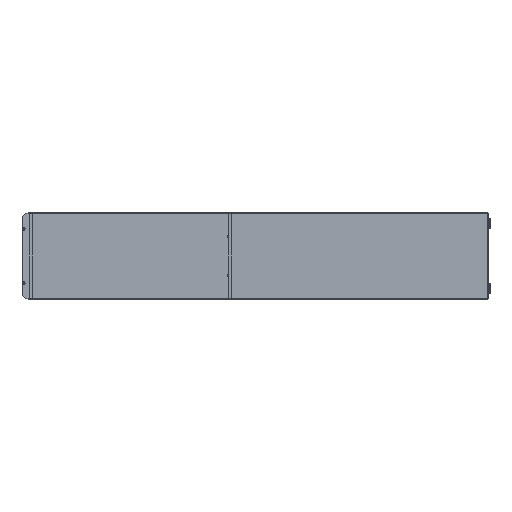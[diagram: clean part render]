
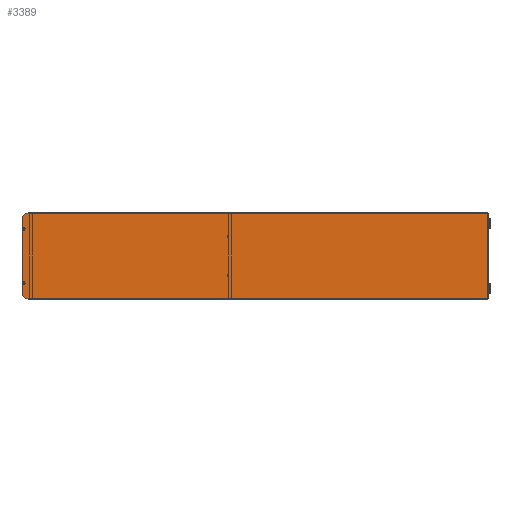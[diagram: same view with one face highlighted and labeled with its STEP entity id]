
A CAD part, left-side view. The second image highlights one B-rep face of the part: STEP entity #3389.
In plain terms, the highlighted planar face has unit normal (-1, 0, 0) as drawn and (0, 0, 1) by its records, which use the part's own axes.
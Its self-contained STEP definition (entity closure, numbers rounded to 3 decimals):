
#2192=CARTESIAN_POINT('',(-197.646,1060.07,
0.12));
#2194=CARTESIAN_POINT('',(-197.71,-1060.039,
0.119));
#2289=DIRECTION('',(1.,0.,0.));
#2290=VECTOR('',#2289,365.319);
#2291=CARTESIAN_POINT('',(-182.66,-1087.91,0.12));
#2292=LINE('',#2291,#2290);
#2297=DIRECTION('',(-0.707,0.707,0.));
#2298=VECTOR('',#2297,21.313);
#2299=CARTESIAN_POINT('',(-182.66,-1087.91,0.12));
#2300=LINE('',#2299,#2298);
#2301=DIRECTION('',(0.,1.,0.));
#2302=VECTOR('',#2301,2120.109);
#2303=CARTESIAN_POINT('',(-197.71,-1060.039,
0.119));
#2304=LINE('',#2303,#2302);
#2305=CARTESIAN_POINT('',(-197.646,1060.07,
0.12));
#2306=CARTESIAN_POINT('',(-196.734,1060.981,
0.12));
#2307=CARTESIAN_POINT('',(-195.803,1061.898,
0.12));
#2308=CARTESIAN_POINT('',(-194.892,1062.809,
0.12));
#2310=DIRECTION('',(1.,0.,0.));
#2311=VECTOR('',#2310,389.767);
#2312=CARTESIAN_POINT('',(-194.892,1062.809,
0.12));
#2313=LINE('',#2312,#2311);
#2314=CARTESIAN_POINT('',(194.876,1062.823,0.12));
#2315=CARTESIAN_POINT('',(195.794,1061.905,0.12));
#2316=CARTESIAN_POINT('',(196.728,1060.988,0.12));
#2317=CARTESIAN_POINT('',(197.645,1060.07,0.12));
#2319=DIRECTION('',(-0.707,-0.707,0.));
#2320=VECTOR('',#2319,21.313);
#2321=CARTESIAN_POINT('',(197.73,-1072.84,0.12));
#2322=LINE('',#2321,#2320);
#2323=DIRECTION('',(0.,-1.,0.));
#2324=VECTOR('',#2323,4.5);
#2325=CARTESIAN_POINT('',(-127.63,-1077.82,0.12));
#2326=LINE('',#2325,#2324);
#2327=CARTESIAN_POINT('',(-125.,-1082.32,0.12));
#2328=DIRECTION('',(0.,0.,1.));
#2329=DIRECTION('',(-1.,0.,0.));
#2330=AXIS2_PLACEMENT_3D('',#2327,#2328,#2329);
#2332=DIRECTION('',(0.,1.,0.));
#2333=VECTOR('',#2332,4.5);
#2334=CARTESIAN_POINT('',(-122.37,-1082.32,0.12));
#2335=LINE('',#2334,#2333);
#2336=CARTESIAN_POINT('',(-125.,-1077.82,0.12));
#2337=DIRECTION('',(0.,0.,1.));
#2338=DIRECTION('',(1.,0.,0.));
#2339=AXIS2_PLACEMENT_3D('',#2336,#2337,#2338);
#2341=CARTESIAN_POINT('',(125.,-1077.82,0.12));
#2342=DIRECTION('',(0.,0.,1.));
#2343=DIRECTION('',(1.,0.,0.));
#2344=AXIS2_PLACEMENT_3D('',#2341,#2342,#2343);
#2346=DIRECTION('',(0.,-1.,0.));
#2347=VECTOR('',#2346,4.5);
#2348=CARTESIAN_POINT('',(122.37,-1077.82,0.12));
#2349=LINE('',#2348,#2347);
#2350=CARTESIAN_POINT('',(125.,-1082.32,0.12));
#2351=DIRECTION('',(0.,0.,1.));
#2352=DIRECTION('',(-1.,0.,0.));
#2353=AXIS2_PLACEMENT_3D('',#2350,#2351,#2352);
#2355=DIRECTION('',(0.,1.,0.));
#2356=VECTOR('',#2355,4.5);
#2357=CARTESIAN_POINT('',(127.63,-1082.32,0.12));
#2358=LINE('',#2357,#2356);
#2370=DIRECTION('',(-0.002,-1.,0.));
#2371=VECTOR('',#2370,12.801);
#2372=CARTESIAN_POINT('',(-197.71,-1060.039,
0.119));
#2373=LINE('',#2372,#2371);
#2773=DIRECTION('',(0.,1.,0.));
#2774=VECTOR('',#2773,2120.068);
#2775=CARTESIAN_POINT('',(197.71,-1059.998,
0.119));
#2776=LINE('',#2775,#2774);
#2863=DIRECTION('',(-0.002,1.,0.));
#2864=VECTOR('',#2863,12.842);
#2865=CARTESIAN_POINT('',(197.73,-1072.84,0.12));
#2866=LINE('',#2865,#2864);
#2948=VERTEX_POINT('',#2194);
#2950=VERTEX_POINT('',#2192);
#2984=CARTESIAN_POINT('',(-182.66,-1087.91,0.12));
#2985=CARTESIAN_POINT('',(182.66,-1087.91,0.12));
#2986=VERTEX_POINT('',#2984);
#2987=VERTEX_POINT('',#2985);
#2988=CARTESIAN_POINT('',(-197.73,-1072.84,0.12));
#2989=VERTEX_POINT('',#2988);
#2990=VERTEX_POINT('',#2308);
#2991=CARTESIAN_POINT('',(194.876,1062.823,0.12));
#2992=VERTEX_POINT('',#2991);
#2993=VERTEX_POINT('',#2317);
#2994=CARTESIAN_POINT('',(197.71,-1059.998,
0.119));
#2995=VERTEX_POINT('',#2994);
#2996=CARTESIAN_POINT('',(197.73,-1072.84,0.12));
#2997=VERTEX_POINT('',#2996);
#2998=CARTESIAN_POINT('',(-127.63,-1077.82,0.12));
#2999=CARTESIAN_POINT('',(-127.63,-1082.32,0.12));
#3000=VERTEX_POINT('',#2998);
#3001=VERTEX_POINT('',#2999);
#3002=CARTESIAN_POINT('',(-122.37,-1082.32,0.12));
#3003=VERTEX_POINT('',#3002);
#3004=CARTESIAN_POINT('',(-122.37,-1077.82,0.12));
#3005=VERTEX_POINT('',#3004);
#3006=CARTESIAN_POINT('',(127.63,-1077.82,0.12));
#3007=CARTESIAN_POINT('',(122.37,-1077.82,0.12));
#3008=VERTEX_POINT('',#3006);
#3009=VERTEX_POINT('',#3007);
#3010=CARTESIAN_POINT('',(122.37,-1082.32,0.12));
#3011=VERTEX_POINT('',#3010);
#3012=CARTESIAN_POINT('',(127.63,-1082.32,0.12));
#3013=VERTEX_POINT('',#3012);
#3344=CARTESIAN_POINT('',(-197.61,-1062.79,0.12));
#3345=DIRECTION('',(0.,0.,1.));
#3346=DIRECTION('',(1.,0.,0.));
#3347=AXIS2_PLACEMENT_3D('',#3344,#3345,#3346);
#3348=PLANE('',#3347);
#3349=ORIENTED_EDGE('',*,*,#3334,.F.);
#3351=ORIENTED_EDGE('',*,*,#3350,.T.);
#3353=ORIENTED_EDGE('',*,*,#3352,.F.);
#3354=ORIENTED_EDGE('',*,*,#3219,.T.);
#3356=ORIENTED_EDGE('',*,*,#3355,.T.);
#3358=ORIENTED_EDGE('',*,*,#3357,.T.);
#3360=ORIENTED_EDGE('',*,*,#3359,.T.);
#3362=ORIENTED_EDGE('',*,*,#3361,.F.);
#3364=ORIENTED_EDGE('',*,*,#3363,.F.);
#3366=ORIENTED_EDGE('',*,*,#3365,.T.);
#3367=EDGE_LOOP('',(#3349,#3351,#3353,#3354,#3356,#3358,#3360,#3362,#3364,
#3366));
#3368=FACE_OUTER_BOUND('',#3367,.F.);
#3370=ORIENTED_EDGE('',*,*,#3369,.T.);
#3372=ORIENTED_EDGE('',*,*,#3371,.T.);
#3374=ORIENTED_EDGE('',*,*,#3373,.T.);
#3376=ORIENTED_EDGE('',*,*,#3375,.T.);
#3377=EDGE_LOOP('',(#3370,#3372,#3374,#3376));
#3378=FACE_BOUND('',#3377,.F.);
#3380=ORIENTED_EDGE('',*,*,#3379,.T.);
#3382=ORIENTED_EDGE('',*,*,#3381,.T.);
#3384=ORIENTED_EDGE('',*,*,#3383,.T.);
#3386=ORIENTED_EDGE('',*,*,#3385,.T.);
#3387=EDGE_LOOP('',(#3380,#3382,#3384,#3386));
#3388=FACE_BOUND('',#3387,.F.);
#2309=B_SPLINE_CURVE_WITH_KNOTS('',3,(#2305,#2306,#2307,#2308),.UNSPECIFIED.,
.F.,.F.,(4,4),(0.,1.),.UNSPECIFIED.);
#2318=B_SPLINE_CURVE_WITH_KNOTS('',3,(#2314,#2315,#2316,#2317),.UNSPECIFIED.,
.F.,.F.,(4,4),(0.,1.),.UNSPECIFIED.);
#2331=CIRCLE('',#2330,2.63);
#2340=CIRCLE('',#2339,2.63);
#2345=CIRCLE('',#2344,2.63);
#2354=CIRCLE('',#2353,2.63);
#3219=EDGE_CURVE('',#2948,#2950,#2304,.T.);
#3334=EDGE_CURVE('',#2986,#2987,#2292,.T.);
#3350=EDGE_CURVE('',#2986,#2989,#2300,.T.);
#3352=EDGE_CURVE('',#2948,#2989,#2373,.T.);
#3355=EDGE_CURVE('',#2950,#2990,#2309,.T.);
#3357=EDGE_CURVE('',#2990,#2992,#2313,.T.);
#3359=EDGE_CURVE('',#2992,#2993,#2318,.T.);
#3361=EDGE_CURVE('',#2995,#2993,#2776,.T.);
#3363=EDGE_CURVE('',#2997,#2995,#2866,.T.);
#3365=EDGE_CURVE('',#2997,#2987,#2322,.T.);
#3369=EDGE_CURVE('',#3000,#3001,#2326,.T.);
#3371=EDGE_CURVE('',#3001,#3003,#2331,.T.);
#3373=EDGE_CURVE('',#3003,#3005,#2335,.T.);
#3375=EDGE_CURVE('',#3005,#3000,#2340,.T.);
#3379=EDGE_CURVE('',#3008,#3009,#2345,.T.);
#3381=EDGE_CURVE('',#3009,#3011,#2349,.T.);
#3383=EDGE_CURVE('',#3011,#3013,#2354,.T.);
#3385=EDGE_CURVE('',#3013,#3008,#2358,.T.);
#3389=ADVANCED_FACE('',(#3368,#3378,#3388),#3348,.T.);
